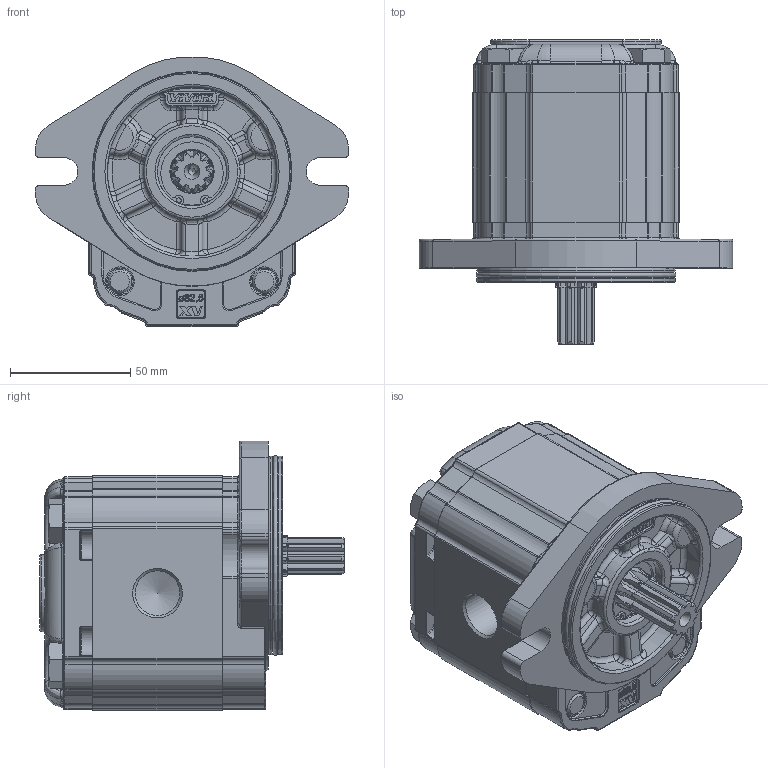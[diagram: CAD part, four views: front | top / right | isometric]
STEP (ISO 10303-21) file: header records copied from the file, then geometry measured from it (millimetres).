
FILE_DESCRIPTION(/* description */ ('Unknown'),/* implementation_level */ '2;1');
FILE_NAME(/* name */ 'X2M4531IBBE',/* time_stamp */ '2021-04-26T11:52:04+02:00',/* author */ ('Unknown'),/* organization */ ('Unknown'),/* preprocessor_version */ 'ST-DEVELOPER v16.7',/* originating_system */ 'Solid Edge',/* authorisation */ 'Unknown');
FILE_SCHEMA (('AUTOMOTIVE_DESIGN {1 0 10303 214 3 1 1}'));
Products named in the file (5): X2M4531IBBE; X2M31; 2I; X2BBH54; XM219-E
Assembly tree (4 placements, depth 2):
  X2M4531IBBE
    X2M31
    2I
    X2BBH54
    XM219-E
Bounding box: 130.38 x 126.7 x 112.3 mm (x, y, z)
Volume: 713693.3 mm3; surface area: 105010.9 mm2
Topology: 4 solids, 5 shells, 1550 faces, 3931 edges, 2453 vertices
Faces by surface type: plane 599, cylinder 432, bspline 210, torus 206, cone 77, sphere 26
Full cylindrical faces by diameter (mm): 2 x2, 10.5 x2, 11 x2, 11.445 x1, 16 x4, 17.42 x1, 18 x1, 18.631 x1, 19 x1, 20.595 x1, 23.332 x1, 25.834 x1, 28.5 x1, 28.56 x1, 28.57 x1, 28.8 x1, 30.4 x1, 79.6 x2, 82.5 x2
Entity records: 58869 total; most frequent: CARTESIAN_POINT 12913, ORIENTED_EDGE 7624, DIRECTION 7298, EDGE_CURVE 3812, AXIS2_PLACEMENT_3D 2694, VERTEX_POINT 2409, LINE 1910, VECTOR 1910
